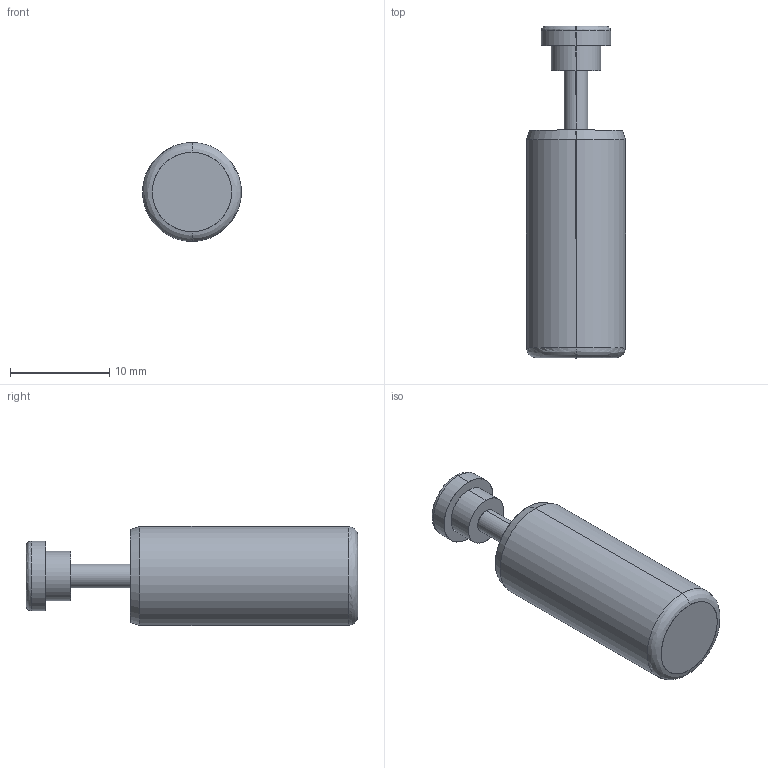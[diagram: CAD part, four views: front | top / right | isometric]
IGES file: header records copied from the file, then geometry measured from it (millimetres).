
Start section: SolidWorks IGES file using analytic representation for surfaces
Bounding box: 10 x 33.5 x 10 mm (x, y, z)
Surface area: 1048 mm2 (no closed solid volume)
Topology: 0 solids, 0 shells, 19 faces, 312 edges, 312 vertices
Faces by surface type: revolution 10, bspline 9
